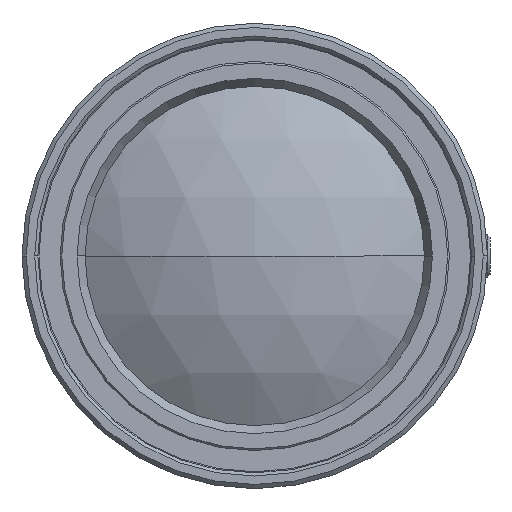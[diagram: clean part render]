
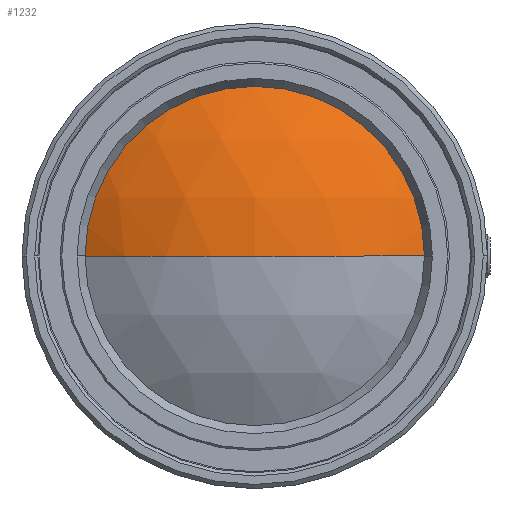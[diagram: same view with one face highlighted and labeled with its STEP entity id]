
A CAD part, left-side view. The second image highlights one B-rep face of the part: STEP entity #1232.
In plain terms, the highlighted spherical face has radius 37.11 mm.
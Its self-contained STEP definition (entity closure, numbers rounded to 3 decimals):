
#14 = VERTEX_POINT ( 'NONE', #4421 ) ;
#199 = DIRECTION ( 'NONE',  ( 1., 0., 0. ) ) ;
#638 = AXIS2_PLACEMENT_3D ( 'NONE', #2540, #2824, #2529 ) ;
#809 = FACE_OUTER_BOUND ( 'NONE', #4257, .T. ) ;
#879 = DIRECTION ( 'NONE',  ( 0., 1., 0. ) ) ;
#980 = AXIS2_PLACEMENT_3D ( 'NONE', #2557, #199, #879 ) ;
#1039 = CARTESIAN_POINT ( 'NONE',  ( -73.448, 0., 0. ) ) ;
#1230 = SPHERICAL_SURFACE ( 'NONE', #1936, 37.11 ) ;
#1232 = ADVANCED_FACE ( 'NONE', ( #809 ), #1230, .T. ) ;
#1610 = EDGE_CURVE ( 'NONE', #2378, #2565, #4016, .T. ) ;
#1652 = CIRCLE ( 'NONE', #980, 20.045 ) ;
#1669 = DIRECTION ( 'NONE',  ( -1., 0., 0. ) ) ;
#1784 = EDGE_CURVE ( 'NONE', #14, #2565, #1652, .T. ) ;
#1936 = AXIS2_PLACEMENT_3D ( 'NONE', #2220, #4279, #3593 ) ;
#1993 = CARTESIAN_POINT ( 'NONE',  ( -104.679, -20.045, 0. ) ) ;
#2044 = ORIENTED_EDGE ( 'NONE', *, *, #1610, .T. ) ;
#2220 = CARTESIAN_POINT ( 'NONE',  ( -73.448, 0., 0. ) ) ;
#2378 = VERTEX_POINT ( 'NONE', #3814 ) ;
#2529 = DIRECTION ( 'NONE',  ( 0., -1., 0. ) ) ;
#2540 = CARTESIAN_POINT ( 'NONE',  ( -73.448, 0., 0. ) ) ;
#2557 = CARTESIAN_POINT ( 'NONE',  ( -104.679, 0., 0. ) ) ;
#2558 = EDGE_CURVE ( 'NONE', #2378, #14, #4171, .T. ) ;
#2565 = VERTEX_POINT ( 'NONE', #1993 ) ;
#2824 = DIRECTION ( 'NONE',  ( 0., 0., 1. ) ) ;
#2903 = AXIS2_PLACEMENT_3D ( 'NONE', #1039, #3063, #1669 ) ;
#3063 = DIRECTION ( 'NONE',  ( 0., 0., -1. ) ) ;
#3356 = ORIENTED_EDGE ( 'NONE', *, *, #1784, .F. ) ;
#3593 = DIRECTION ( 'NONE',  ( 0., 1., 0. ) ) ;
#3814 = CARTESIAN_POINT ( 'NONE',  ( -110.558, 0., 0. ) ) ;
#4016 = CIRCLE ( 'NONE', #638, 37.11 ) ;
#4030 = ORIENTED_EDGE ( 'NONE', *, *, #2558, .F. ) ;
#4171 = CIRCLE ( 'NONE', #2903, 37.11 ) ;
#4257 = EDGE_LOOP ( 'NONE', ( #4030, #2044, #3356 ) ) ;
#4279 = DIRECTION ( 'NONE',  ( 0., 0., 1. ) ) ;
#4421 = CARTESIAN_POINT ( 'NONE',  ( -104.679, 20.045, 0. ) ) ;
